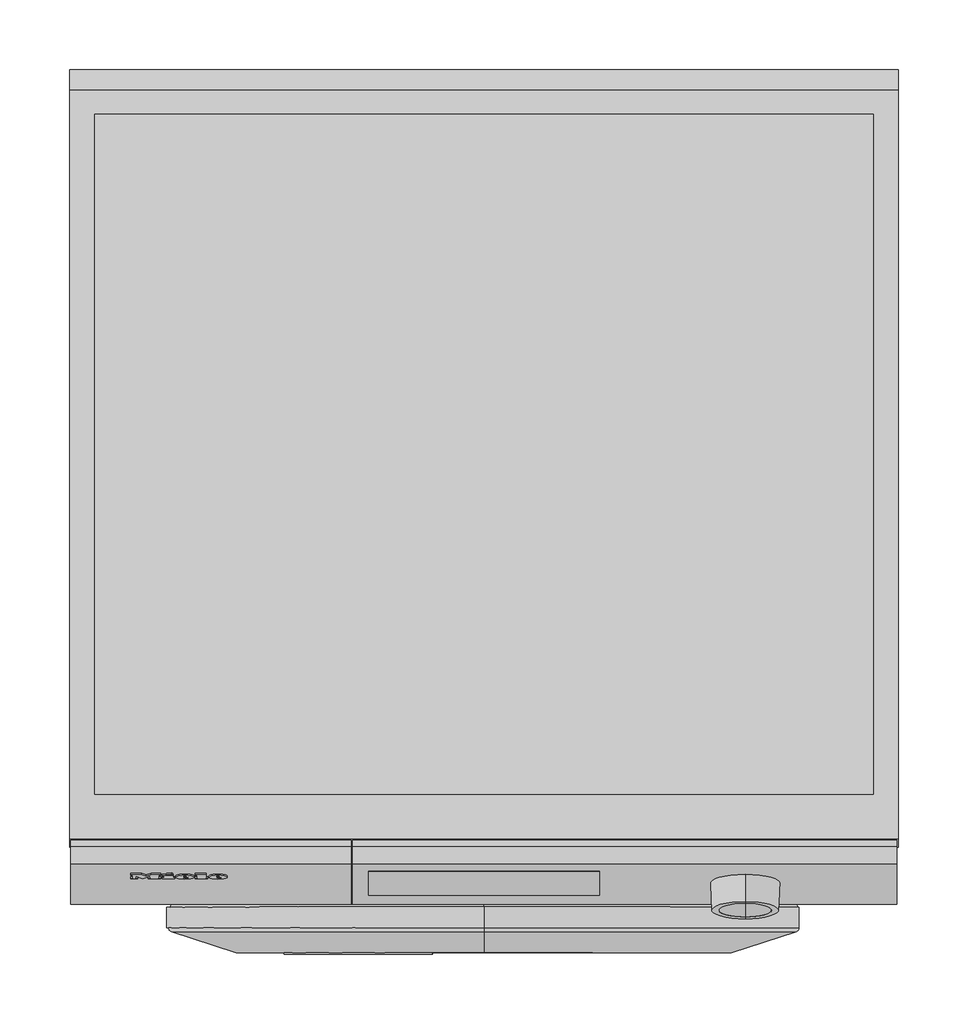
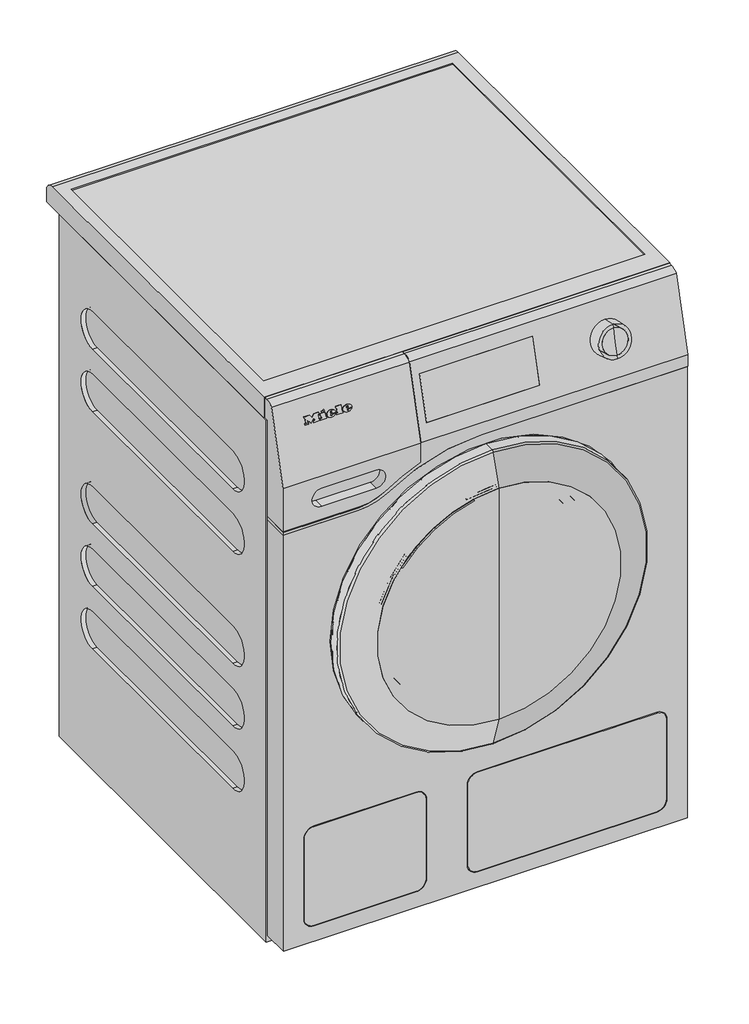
# Not in any storey: 1 proxy.
"""IFC4 building model written with IfcOpenShell, lengths in millimetres."""

from ifc_helpers import new_model, si_unit, origin, place, context, project, spatial, transform, mapped, element, save
from components import specialty_equipment_6f7c696d, specialty_equipment_badbdaf0

model = new_model("IFC4")

# Units and contexts
model_context = context("Model", 3, world=origin())
ifc_project = project(units=[si_unit("LENGTHUNIT", "METRE", prefix="MILLI")], contexts=[model_context])

# Site, building
site = spatial("IfcSite", under=ifc_project)
building = spatial("IfcBuilding", under=site)

# Proxy
placement = place(None, origin())
specialty_equipment_shape = specialty_equipment_6f7c696d(model_context)
specialty_equipment_2_shape = specialty_equipment_badbdaf0(model_context)
element("IfcBuildingElementProxy", 1, Name="12448780_PL_WEI895WCS_LW : 11EI8955_PL_12448780_WEI895WCS_LW", ObjectType="12448780_PL_WEI895WCS_LW : 11EI8955_PL_12448780_WEI895WCS_LW", at=placement, inside=building, context=model_context, shape_type="MappedRepresentation", body=[
    mapped(specialty_equipment_shape, transform((0.0, 0.0, 0.0), x_axis=(1.0, 0.0, 0.0), y_axis=(0.0, 1.0, 0.0), z_axis=(0.0, 0.0, 1.0))),
    mapped(specialty_equipment_2_shape, transform((0.0, 0.0, 0.0), x_axis=(1.0, 0.0, 0.0), y_axis=(0.0, 1.0, 0.0), z_axis=(0.0, 0.0, 1.0))),
])

save(model, "model.ifc")
